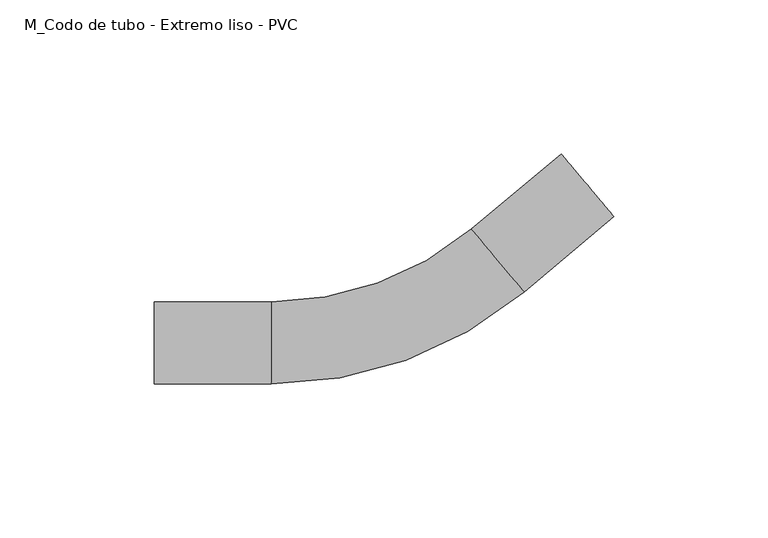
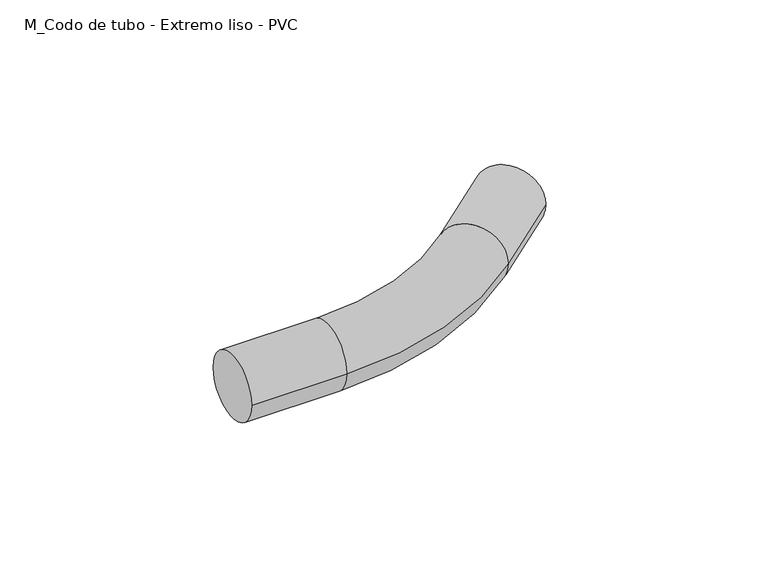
"""IFC4 building model written with IfcOpenShell, lengths in millimetres: cable carrier fitting geometry, M_Codo de tubo - Extremo liso - PVC : CODO ILUMINACION."""

from ifc_helpers import new_model, si_unit, point, frame, origin, place, context, project, spatial, circle_curve, ellipse_curve, trimmed, source, transform, mapped, element, save
from ifc_brep_helpers import plane_surface, cylinder_surface, revolved_surface, advanced_brep


def m_codo_de_tubo_extremo_liso_pvc_b46efc4b(model_context):
    return source(origin(), model_context, "Body", "AdvancedBrep", [
        advanced_brep(
        [(-79.7017978, -13.335, 0.0), (-79.7017978, 13.335, 0.0), (-41.6017978, -13.335, 0.0), (-41.6017978, 13.335, 0.0), (23.2972532, 36.9563228, 0.0), (40.4403988, 16.5259175, 0.0), (69.6266921, 41.0161254, 0.0), (52.4835465, 61.4465307, 0.0)],
        [
            (0, 1, circle_curve(frame((-79.7017978, 0.0, 0.0), z_axis=(-1.0, 0.0, 0.0), x_axis=(0.0, 1.0, 0.0)), 13.335)),
            (1, 0, circle_curve(frame((-79.7017978, 0.0, 0.0), z_axis=(-1.0, 0.0, 0.0), x_axis=(0.0, 1.0, 0.0)), 13.335)),
            (0, 2),
            (2, 3, circle_curve(frame((-41.6017978, 0.0, 0.0), z_axis=(-1.0, 0.0, 0.0), x_axis=(0.0, 1.0, 0.0)), 13.335)),
            (3, 1),
            (3, 2, circle_curve(frame((-41.6017978, 0.0, 0.0), z_axis=(-1.0, 0.0, 0.0), x_axis=(0.0, 1.0, 0.0)), 13.335)),
            (4, 3, circle_curve(frame((-41.6017978, 114.3, 0.0), z_axis=(0.0, 0.0, -1.0), x_axis=(0.0, -1.0, 0.0)), 100.965)),
            (2, 5, circle_curve(frame((-41.6017978, 114.3, 0.0), z_axis=(0.0, 0.0, 1.0), x_axis=(0.0, -1.0, 0.0)), 127.635)),
            (5, 4, circle_curve(frame((31.868826, 26.7411202, 0.0), z_axis=(-0.7660444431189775, -0.64278760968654, 0.0), x_axis=(-0.64278760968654, 0.7660444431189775, 0.0)), 13.335)),
            (4, 5, circle_curve(frame((31.868826, 26.7411202, 0.0), z_axis=(-0.7660444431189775, -0.64278760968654, 0.0), x_axis=(-0.64278760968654, 0.7660444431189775, 0.0)), 13.335)),
            (6, 7, circle_curve(frame((61.0551193, 51.2313281, 0.0), z_axis=(0.7660444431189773, 0.6427876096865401, 0.0), x_axis=(-0.6427876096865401, 0.7660444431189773, 0.0)), 13.335)),
            (7, 6, circle_curve(frame((61.0551193, 51.2313281, 0.0), z_axis=(0.7660444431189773, 0.6427876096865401, 0.0), x_axis=(-0.6427876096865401, 0.7660444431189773, 0.0)), 13.335)),
            (5, 6),
            (7, 4),
        ],
        [
            plane_surface(frame((-79.7017978, 0.0, 0.0), z_axis=(-1.0, 0.0, 0.0), x_axis=(0.0, 0.0, 1.0))),
            cylinder_surface(frame((-79.7017978, 0.0, 0.0), z_axis=(-1.0, 0.0, 0.0), x_axis=(0.0, 1.0, 0.0)), 13.335),
            revolved_surface(trimmed(ellipse_curve(frame((-41.6017978, 0.0, 0.0), z_axis=(-1.0, 0.0, 0.0), x_axis=(0.0, 1.0, 0.0)), 13.335, 13.335), [point((-41.6017978, -13.335, 0.0))], [point((-41.6017978, 13.335, 0.0))], True, "CARTESIAN"), (-41.6017978, 114.3, 0.0), (0.0, 0.0, 1.0)),
            revolved_surface(trimmed(ellipse_curve(frame((-41.6017978, 0.0, 0.0), z_axis=(-1.0, 0.0, 0.0), x_axis=(0.0, 1.0, 0.0)), 13.335, 13.335), [point((-41.6017978, 13.335, 0.0))], [point((-41.6017978, -13.335, 0.0))], True, "CARTESIAN"), (-41.6017978, 114.3, 0.0), (0.0, 0.0, 1.0)),
            plane_surface(frame((61.0551193, 51.2313281, 0.0), z_axis=(0.7660444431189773, 0.6427876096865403, 0.0), x_axis=(0.0, 0.0, 1.0))),
            cylinder_surface(frame((31.868826, 26.7411202, 0.0), z_axis=(-0.7660444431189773, -0.6427876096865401, 0.0), x_axis=(-0.6427876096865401, 0.7660444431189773, 0.0)), 13.335),
        ],
        [
            (0, [[1, 2]]),
            (1, [[-1, 3, 4, 5]]),
            (1, [[-2, -5, 6, -3]]),
            (2, [[7, -4, 8, 9]]),
            (3, [[-8, -6, -7, 10]]),
            (4, [[11, 12]]),
            (5, [[-9, 13, -12, 14]]),
            (5, [[-10, -14, -11, -13]]),
        ],
    ),
    ])


if __name__ == "__main__":
    model = new_model("IFC4")
    model_context = context("Model", 3, world=origin())
    ifc_project = project(units=[si_unit("LENGTHUNIT", "METRE", prefix="MILLI")], contexts=[model_context])
    site = spatial("IfcSite", under=ifc_project)
    building = spatial("IfcBuilding", under=site)
    placement = place(None, origin())
    m_codo_de_tubo_extremo_liso_pvc_shape = m_codo_de_tubo_extremo_liso_pvc_b46efc4b(model_context)
    element("IfcCableCarrierFitting", 1, ObjectType="M_Codo de tubo - Extremo liso - PVC : CODO ILUMINACION", at=placement, inside=building, context=model_context, shape_type="MappedRepresentation", body=[
        mapped(m_codo_de_tubo_extremo_liso_pvc_shape, transform((0.0, 0.0, 0.0), x_axis=(1.0, 0.0, 0.0), y_axis=(0.0, 1.0, 0.0), z_axis=(0.0, 0.0, 1.0))),
    ])
    save(model, "model.ifc")
